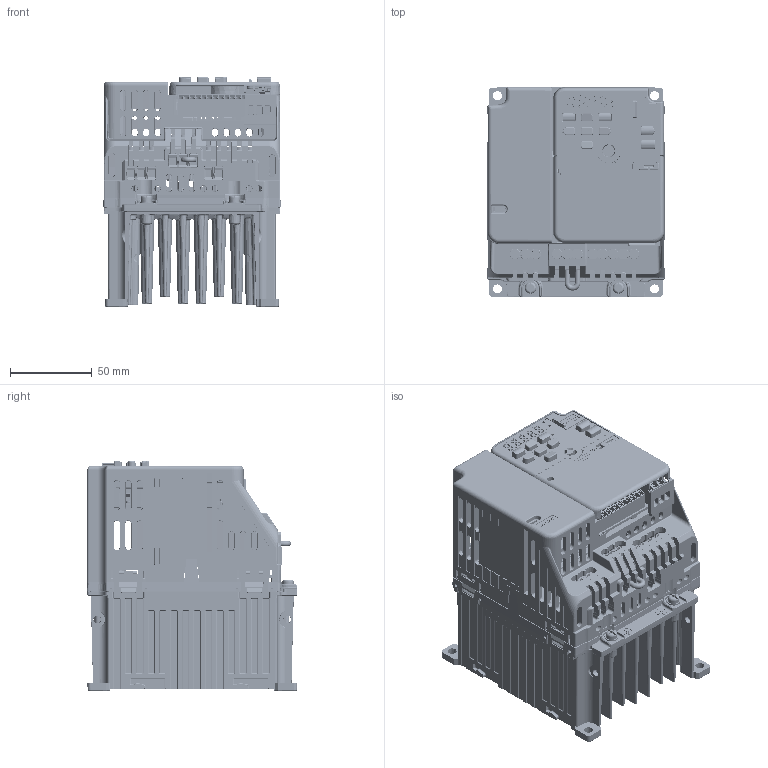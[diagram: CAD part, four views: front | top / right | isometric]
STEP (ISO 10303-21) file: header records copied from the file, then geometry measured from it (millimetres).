
FILE_DESCRIPTION((''),'2;1');
FILE_NAME('GA500_STD_FRAME_V2-E_ASM','2019-03-08T',('anm'),('YASKAWA ELECTRIC CORCORATION'),'PRO/ENGINEER BY PARAMETRIC TECHNOLOGY CORPORATION, 2015440','PRO/ENGINEER BY PARAMETRIC TECHNOLOGY CORPORATION, 2015440','');
FILE_SCHEMA(('CONFIG_CONTROL_DESIGN'));
Products named in the file (129): LAY_KIPR-GA50_Q_4004_1; 400-104-194_AF0_1; SCAT41279-1_1; 400-104-359_AF0_1; 400-104-288-01E-5_6PCB_AF0_1; MKDS5NHV_5-ZB-6P35_AF0_1; MKDS5NHV_3-ZB-6P35_AF0_1; ETP760581_6PCB_AF0_ASM_1_ASM; 400-104-288-01E-5_5PCB_AF0_1; MKDS5NHV_3-ZB-6P35_AF1_1; ETP760550_5PCB_AF0_ASM_1_ASM; 400-104-154_AF1_1; 400-104-154_AF0_ASM_1_ASM; 400-104-023-01F-5_1; 95003-2884_1; B12B-PASK-1_1; MANIFOLD_SOLID_BREP_352972; MANIFOLD_SOLID_BREP_353123; MANIFOLD_SOLID_BREP_353274; MANIFOLD_SOLID_BREP_353425; MANIFOLD_SOLID_BREP_353578; MANIFOLD_SOLID_BREP_353729; MANIFOLD_SOLID_BREP_353880; MANIFOLD_SOLID_BREP_354031; MANIFOLD_SOLID_BREP_354182; MANIFOLD_SOLID_BREP_354333; MANIFOLD_SOLID_BREP_354484; 1734753-1_AF1_1_ASM; MANIFOLD_SOLID_BREP_364403; MANIFOLD_SOLID_BREP_364587; MANIFOLD_SOLID_BREP_364771; MANIFOLD_SOLID_BREP_364955; MANIFOLD_SOLID_BREP_365139; MANIFOLD_SOLID_BREP_365290; MANIFOLD_SOLID_BREP_365441; MANIFOLD_SOLID_BREP_365592; MANIFOLD_SOLID_BREP_365743; MANIFOLD_SOLID_BREP_365894; MANIFOLD_SOLID_BREP_366045; MANIFOLD_SOLID_BREP_366196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
Assembly tree (130 placements, depth 6):
  GA500_STD_FRAME_V2-E_ASM
    KIPR-GA50_Q_4004_ASM_2_ASM
      LAY_KIPR-GA50_Q_4004_1
      400-104-194_AF0_1
      SCAT41279-1_1  x2
      400-104-359_AF0_1
      ETP760581_6PCB_AF0_ASM_1_ASM
        400-104-288-01E-5_6PCB_AF0_1
        MKDS5NHV_5-ZB-6P35_AF0_1
        MKDS5NHV_3-ZB-6P35_AF0_1
      ETP760550_5PCB_AF0_ASM_1_ASM
        400-104-288-01E-5_5PCB_AF0_1
        MKDS5NHV_3-ZB-6P35_AF1_1
      400-104-154_AF0_ASM_1_ASM
        400-104-154_AF1_1
      KTC750050-SXXXX_ASM_1_ASM
        400-104-023-01F-5_1
        95003-2884_1
        B12B-PASK-1_1
        1734753-1_AF1_1_ASM
          MANIFOLD_SOLID_BREP_352972
          MANIFOLD_SOLID_BREP_353123
          MANIFOLD_SOLID_BREP_353274
          MANIFOLD_SOLID_BREP_353425
          MANIFOLD_SOLID_BREP_353578
          MANIFOLD_SOLID_BREP_353729
          MANIFOLD_SOLID_BREP_353880
          MANIFOLD_SOLID_BREP_354031
          MANIFOLD_SOLID_BREP_354182
          MANIFOLD_SOLID_BREP_354333
          MANIFOLD_SOLID_BREP_354484
        DHB-PD20-S131N-4P9_AF1_1_ASM
          MANIFOLD_SOLID_BREP_364403
          MANIFOLD_SOLID_BREP_364587
          MANIFOLD_SOLID_BREP_364771
          MANIFOLD_SOLID_BREP_364955
          MANIFOLD_SOLID_BREP_365139
          MANIFOLD_SOLID_BREP_365290
          MANIFOLD_SOLID_BREP_365441
          MANIFOLD_SOLID_BREP_365592
          MANIFOLD_SOLID_BREP_365743
          MANIFOLD_SOLID_BREP_365894
          MANIFOLD_SOLID_BREP_366045
          MANIFOLD_SOLID_BREP_366196
          MANIFOLD_SOLID_BREP_366347
          MANIFOLD_SOLID_BREP_366498
          MANIFOLD_SOLID_BREP_366649
          MANIFOLD_SOLID_BREP_366800
          MANIFOLD_SOLID_BREP_366951
          MANIFOLD_SOLID_BREP_367102
          MANIFOLD_SOLID_BREP_367253
          MANIFOLD_SOLID_BREP_367404
          MANIFOLD_SOLID_BREP_367555
          MANIFOLD_SOLID_BREP_367706
          MANIFOLD_SOLID_BREP_367857
          MANIFOLD_SOLID_BREP_368008
          MANIFOLD_SOLID_BREP_368159
        KARI_SPTA1_9-3P5_AF0_1_ASM
          MANIFOLD_SOLID_BREP_374726
          MANIFOLD_SOLID_BREP_374877
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Bounding box: 108.58 x 128.29 x 140.25 mm (x, y, z)
Volume: 482870.9 mm3; surface area: 365560.4 mm2
Topology: 114 solids, 114 shells, 14745 faces, 39959 edges, 25489 vertices
Faces by surface type: plane 9025, cylinder 3149, cone 895, bspline 862, torus 514, sphere 300
Entity records: 507342 total; most frequent: CARTESIAN_POINT 141036, ORIENTED_EDGE 79052, DIRECTION 71015, EDGE_CURVE 39526, VECTOR 27749, LINE 27749, VERTEX_POINT 25410, AXIS2_PLACEMENT_3D 21633
